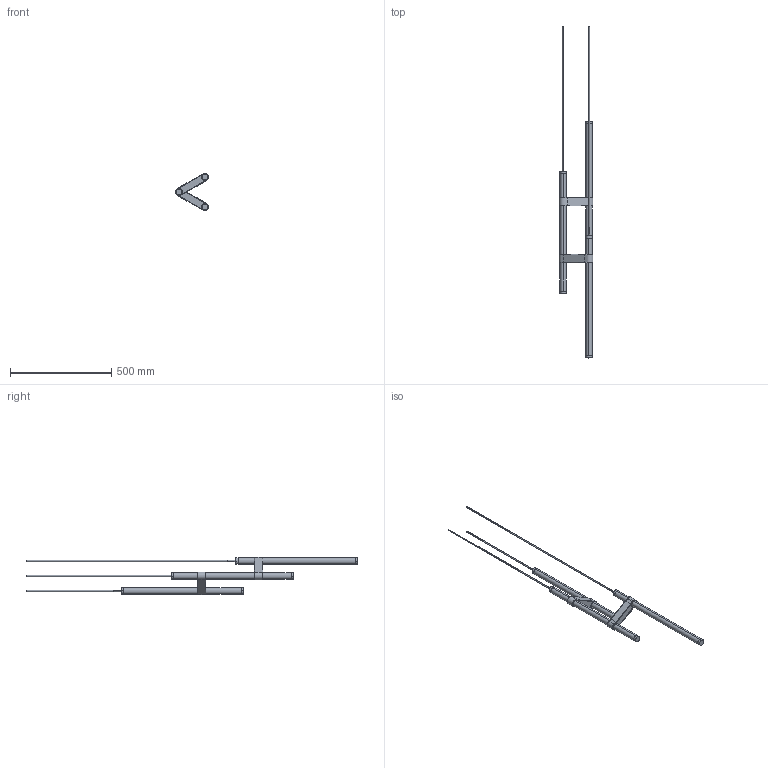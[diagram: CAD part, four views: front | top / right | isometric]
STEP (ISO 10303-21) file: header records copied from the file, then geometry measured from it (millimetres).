
FILE_DESCRIPTION (( 'STEP AP203' ), '1' );
FILE_NAME ('SPPARA05SMXXXXXXX-PER 3D.STEP', '2026-07-08T08:21:48', ( '' ), ( '' ), 'SwSTEP 2.0', 'SolidWorks 2026', '' );
FILE_SCHEMA (( 'CONFIG_CONTROL_DESIGN' ));
Length unit declared in the file: millimetre
Products named in the file (1): SPPARA05SMXXXXXXX-PER 3D
Bounding box: 166.47 x 1639.4 x 186.3 mm (x, y, z)
Surface area: 272524 mm2 (no closed solid volume)
Topology: 0 solids, 24 shells, 192 faces, 595 edges, 405 vertices
Faces by surface type: cylinder 85, plane 54, torus 47, cone 4, bspline 2
Entity records: 12491 total; most frequent: CARTESIAN_POINT 7461, DIRECTION 1056, ORIENTED_EDGE 871, EDGE_CURVE 595, AXIS2_PLACEMENT_3D 436, VERTEX_POINT 405, CIRCLE 245, EDGE_LOOP 200
